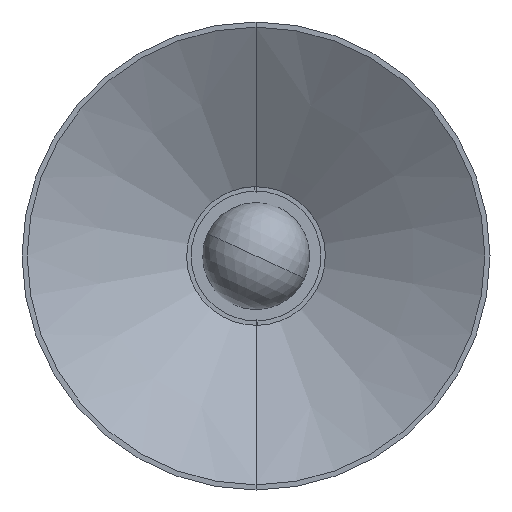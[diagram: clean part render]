
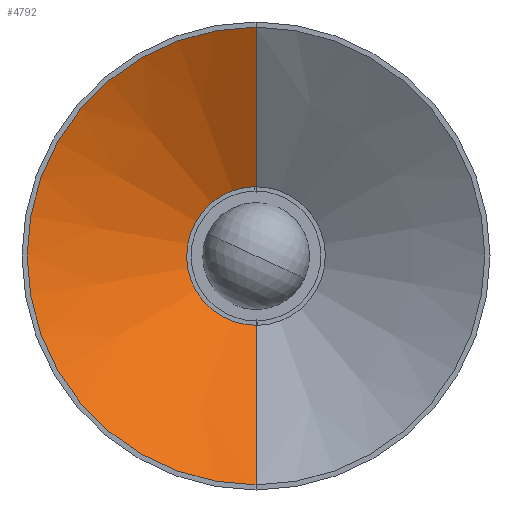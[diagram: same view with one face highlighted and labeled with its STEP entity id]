
A CAD part, front view. The second image highlights one B-rep face of the part: STEP entity #4792.
In plain terms, the highlighted conical face has half-angle 59.194 degrees and reference radius 11.337 mm.
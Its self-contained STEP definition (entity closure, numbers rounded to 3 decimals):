
#159 = DIRECTION ( 'NONE',  ( 0., 0., -1. ) ) ;
#780 = LINE ( 'NONE', #10695, #7688 ) ;
#880 = DIRECTION ( 'NONE',  ( 0., -1., 0. ) ) ;
#939 = DIRECTION ( 'NONE',  ( 0., 0., 1. ) ) ;
#1037 = ORIENTED_EDGE ( 'NONE', *, *, #2995, .T. ) ;
#1888 = CARTESIAN_POINT ( 'NONE',  ( 0., -1.5, 0. ) ) ;
#2190 = VERTEX_POINT ( 'NONE', #9731 ) ;
#2753 = ORIENTED_EDGE ( 'NONE', *, *, #4930, .F. ) ;
#2916 = EDGE_CURVE ( 'NONE', #10303, #2190, #5637, .T. ) ;
#2995 = EDGE_CURVE ( 'NONE', #10303, #10306, #4149, .T. ) ;
#3234 = DIRECTION ( 'NONE',  ( 0., 0., -1. ) ) ;
#3412 = CIRCLE ( 'NONE', #6962, 129.571 ) ;
#3513 = EDGE_LOOP ( 'NONE', ( #1037, #5758, #2753, #10951 ) ) ;
#4149 = CIRCLE ( 'NONE', #5660, 12.047 ) ;
#4398 = DIRECTION ( 'NONE',  ( 0., -0.512, 0.859 ) ) ;
#4637 = CARTESIAN_POINT ( 'NONE',  ( 0., -1.5, -11.337 ) ) ;
#4792 = ADVANCED_FACE ( 'NONE', ( #10008 ), #5848, .F. ) ;
#4813 = DIRECTION ( 'NONE',  ( 0., -0.512, -0.859 ) ) ;
#4930 = EDGE_CURVE ( 'NONE', #2190, #8271, #3412, .T. ) ;
#4983 = DIRECTION ( 'NONE',  ( 0., 1., 0. ) ) ;
#5441 = CARTESIAN_POINT ( 'NONE',  ( 0., -72., 0. ) ) ;
#5637 = LINE ( 'NONE', #4637, #6965 ) ;
#5660 = AXIS2_PLACEMENT_3D ( 'NONE', #7662, #4983, #3234 ) ;
#5758 = ORIENTED_EDGE ( 'NONE', *, *, #8806, .T. ) ;
#5848 = CONICAL_SURFACE ( 'NONE', #6410, 11.337, 1.033 ) ;
#6108 = CARTESIAN_POINT ( 'NONE',  ( 0., -72., 129.571 ) ) ;
#6410 = AXIS2_PLACEMENT_3D ( 'NONE', #1888, #880, #159 ) ;
#6962 = AXIS2_PLACEMENT_3D ( 'NONE', #5441, #8117, #939 ) ;
#6965 = VECTOR ( 'NONE', #4813, 1000. ) ;
#7662 = CARTESIAN_POINT ( 'NONE',  ( 0., -1.923, 0. ) ) ;
#7688 = VECTOR ( 'NONE', #4398, 1000. ) ;
#8117 = DIRECTION ( 'NONE',  ( 0., 1., 0. ) ) ;
#8271 = VERTEX_POINT ( 'NONE', #6108 ) ;
#8806 = EDGE_CURVE ( 'NONE', #10306, #8271, #780, .T. ) ;
#9676 = CARTESIAN_POINT ( 'NONE',  ( 0., -1.923, -12.047 ) ) ;
#9731 = CARTESIAN_POINT ( 'NONE',  ( 0., -72., -129.571 ) ) ;
#10008 = FACE_OUTER_BOUND ( 'NONE', #3513, .T. ) ;
#10303 = VERTEX_POINT ( 'NONE', #9676 ) ;
#10306 = VERTEX_POINT ( 'NONE', #10701 ) ;
#10695 = CARTESIAN_POINT ( 'NONE',  ( 0., -1.5, 11.337 ) ) ;
#10701 = CARTESIAN_POINT ( 'NONE',  ( 0., -1.923, 12.047 ) ) ;
#10951 = ORIENTED_EDGE ( 'NONE', *, *, #2916, .F. ) ;
